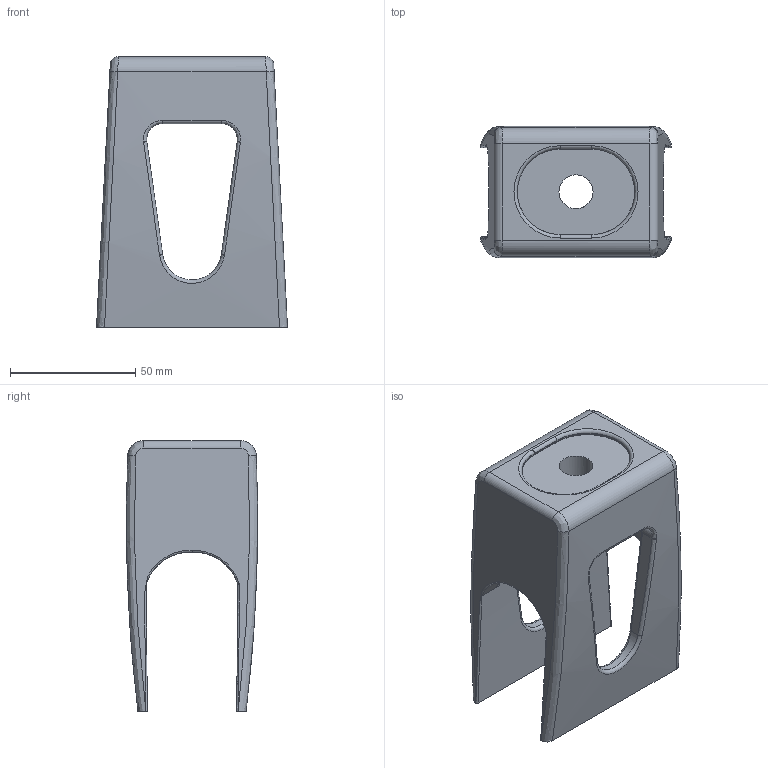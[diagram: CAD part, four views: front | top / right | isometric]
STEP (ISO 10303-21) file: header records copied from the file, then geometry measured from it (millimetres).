
FILE_DESCRIPTION(/* description */ (''),/* implementation_level */ '2;1');
FILE_NAME(/* name */ 'C:/Users/Samuel J. Greear/Downloads/Receiver Heaver/Receiver Heaver v1 - Major.step',/* time_stamp */ '2019-11-28T18:29:01-07:00',/* author */ (''),/* organization */ (''),/* preprocessor_version */ 'ST-DEVELOPER v18',/* originating_system */ 'Autodesk Translation Framework v8.12.0.6',/* authorisation */ '');
FILE_SCHEMA (('AUTOMOTIVE_DESIGN { 1 0 10303 214 3 1 1 }'));
Length unit declared in the file: inch
Products named in the file (2): Receiver Heaver; Major
Assembly tree (1 placements, depth 2):
  Receiver Heaver
    Major
Bounding box: 76.2 x 52.38 x 107.95 mm (x, y, z)
Volume: 129057.4 mm3; surface area: 36162.8 mm2
Topology: 1 solids, 1 shells, 117 faces, 287 edges, 168 vertices
Faces by surface type: bspline 46, cylinder 35, plane 20, torus 16
Full cylindrical faces by diameter (mm): 13.589 x1
Entity records: 5072 total; most frequent: CARTESIAN_POINT 2434, ORIENTED_EDGE 570, DIRECTION 507, EDGE_CURVE 285, AXIS2_PLACEMENT_3D 218, VERTEX_POINT 168, EDGE_LOOP 121, FACE_OUTER_BOUND 117
